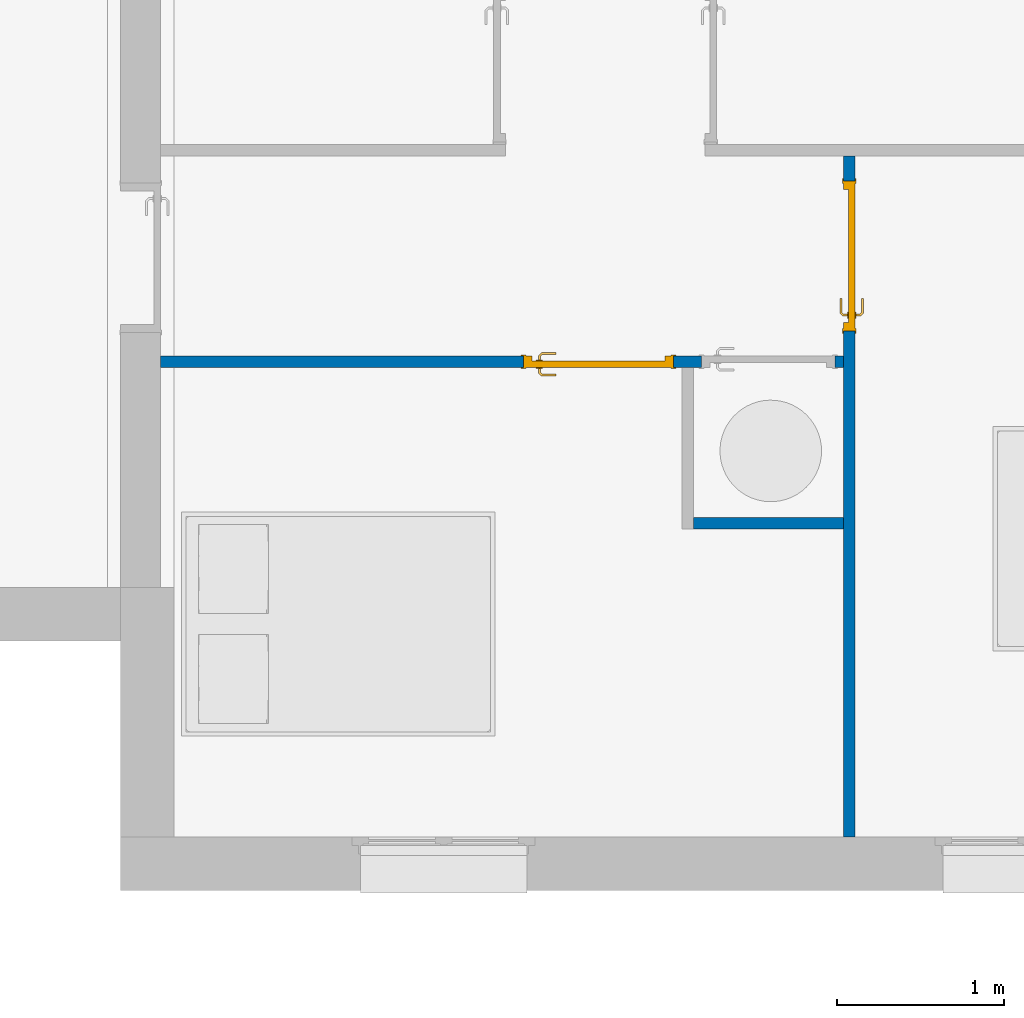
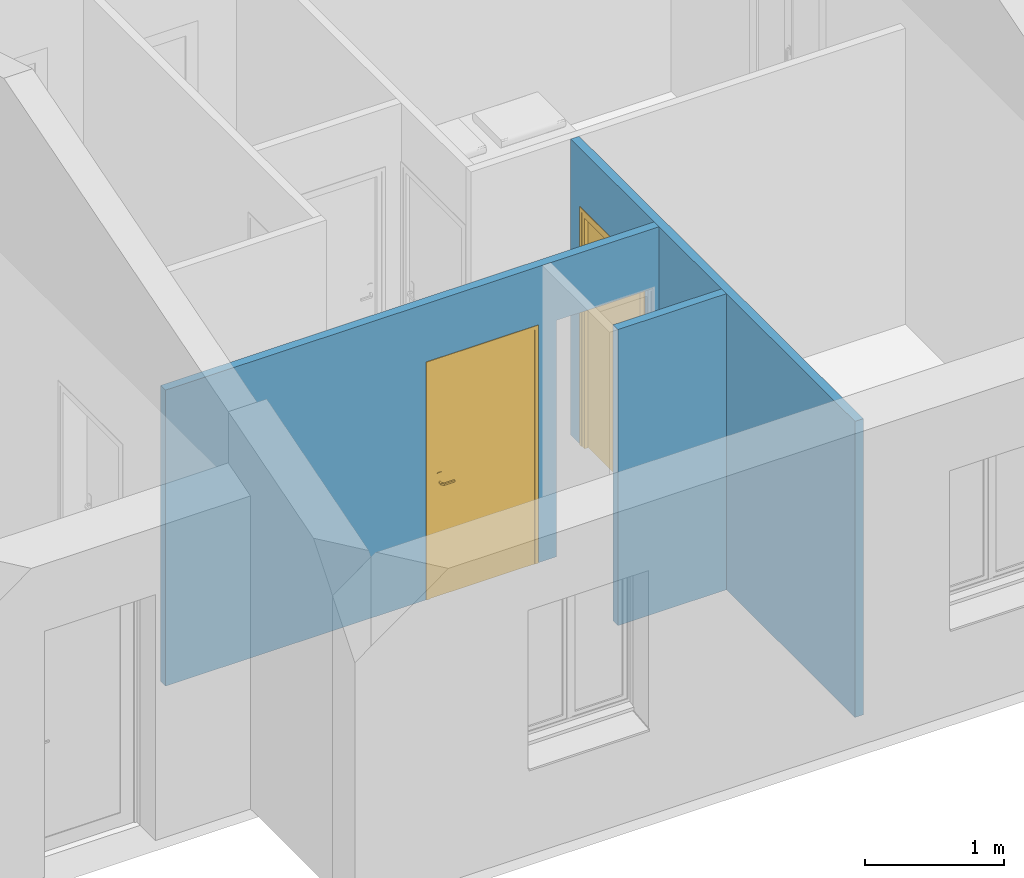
# One storey, part 3 of 18: 3 walls, 2 doors, 3 openings.
"""IFC2X3 building model written with IfcOpenShell, lengths in metres."""

import ifcopenshell
import ifcopenshell.guid

model = None  # the IFC model being written
_history = None  # IfcOwnerHistory: only IFC2X3 demands one
_inside = {}  # id of a spatial element -> (the spatial element, [elements in it])
_under = {}  # id of a project, library or spatial element -> (it, [spatial elements below it])
_declared = {}  # id of a project -> (the project, [libraries it declares])
_typed = {}  # id of a type object -> (the type object, [elements of that type])
_made_of = {}  # id of a material, layer set ... -> (it, [elements and type objects made of it])


def new_model(schema):
    """Start an empty IFC model of exactly this schema.

    Asked for "IFC4X3", IfcOpenShell would pick the latest addendum, in which some entities
    have other attributes; the version numbers below select the first issue.
    IFC2X3 requires an IfcOwnerHistory on every rooted entity: one is made here for all.
    """
    global model, _history
    if schema == "IFC4X3":
        model = ifcopenshell.file(schema_version=(4, 3, 0, 0))
    else:
        model = ifcopenshell.file(schema=schema)
    _inside.clear()
    _under.clear()
    _declared.clear()
    _typed.clear()
    _made_of.clear()
    _history = None
    if model.schema == "IFC2X3":
        org = make("IfcOrganization", Name="unknown")
        user = make(
            "IfcPersonAndOrganization",
            ThePerson=make("IfcPerson", FamilyName="unknown"),
            TheOrganization=org,
        )
        app = make(
            "IfcApplication",
            ApplicationDeveloper=org,
            Version="unknown",
            ApplicationFullName="unknown",
            ApplicationIdentifier="unknown",
        )
        _history = make(
            "IfcOwnerHistory",
            OwningUser=user,
            OwningApplication=app,
            ChangeAction="ADDED",
            CreationDate=0,
        )
    return model


def make(cls, **values):
    """One entity of the class cls with the attributes given. An attribute that is None is left unset."""
    return model.create_entity(
        cls, **{name: value for name, value in values.items() if value is not None}
    )


def entity(cls, *values):
    """Any entity or typed value of the class cls, its attributes in the order of the schema. None: left unset."""
    e = model.create_entity(cls)
    for i, value in enumerate(values):
        if value is not None:
            e[i] = value
    return e


def rooted(cls, **values):
    """An entity with a GlobalId (a new one), such as an element, a storey or a relation."""
    return make(cls, GlobalId=ifcopenshell.guid.new(), OwnerHistory=_history, **values)


def si_unit(unit_type, name, prefix=None):
    """IfcSIUnit, for example si_unit("LENGTHUNIT", "METRE", prefix="MILLI")."""
    return make("IfcSIUnit", UnitType=unit_type, Prefix=prefix, Name=name)


def converted_unit(unit_type, name, factor, base, dimensions=None, offset=None):
    """IfcConversionBasedUnit, such as the inch: factor (a typed value) times the base unit."""
    return make(
        "IfcConversionBasedUnit"
        if offset is None
        else "IfcConversionBasedUnitWithOffset",
        ConversionOffset=offset,
        Dimensions=None
        if dimensions is None
        else entity("IfcDimensionalExponents", *dimensions),
        UnitType=unit_type,
        Name=name,
        ConversionFactor=make(
            "IfcMeasureWithUnit", ValueComponent=factor, UnitComponent=base
        ),
    )


def derived_unit(unit_type, elements):
    """IfcDerivedUnit: a product of units, each with its exponent."""
    return make(
        "IfcDerivedUnit",
        Elements=[
            make("IfcDerivedUnitElement", Unit=unit, Exponent=power)
            for unit, power in elements
        ],
        UnitType=unit_type,
    )


def assignment(units):
    """IfcUnitAssignment: the units of a project."""
    return None if units is None else make("IfcUnitAssignment", Units=units)


def point(xyz):
    """IfcCartesianPoint."""
    return None if xyz is None else make("IfcCartesianPoint", Coordinates=xyz)


def direction(xyz):
    """IfcDirection."""
    return None if xyz is None else make("IfcDirection", DirectionRatios=xyz)


def frame(location, z_axis=None, x_axis=None):
    """IfcAxis2Placement3D, a coordinate frame: its origin and axes. An axis left out is left unset."""
    return make(
        "IfcAxis2Placement3D",
        Location=point(location),
        Axis=direction(z_axis),
        RefDirection=direction(x_axis),
    )


def frame_2d(location, x_axis=None):
    """IfcAxis2Placement2D, a coordinate frame in the plane: its origin and x axis."""
    return make(
        "IfcAxis2Placement2D", Location=point(location), RefDirection=direction(x_axis)
    )


def origin():
    """The frame at (0, 0, 0) with its axes left unset."""
    return frame((0.0, 0.0, 0.0))


def place(relative_to, where):
    """IfcLocalPlacement: puts the frame where relative to a parent placement (None: the world)."""
    return make(
        "IfcLocalPlacement", PlacementRelTo=relative_to, RelativePlacement=where
    )


def context(
    kind, dimensions, precision=None, world=None, true_north=None, identifier=None
):
    """IfcGeometricRepresentationContext, for example the 3D "Model" context."""
    return make(
        "IfcGeometricRepresentationContext",
        ContextIdentifier=identifier,
        ContextType=kind,
        CoordinateSpaceDimension=dimensions,
        Precision=precision,
        WorldCoordinateSystem=world,
        TrueNorth=true_north,
    )


def subcontext(parent, identifier, kind, view, scale=None):
    """IfcGeometricRepresentationSubContext, for example "Body" below "Model"."""
    return make(
        "IfcGeometricRepresentationSubContext",
        ContextIdentifier=identifier,
        ContextType=kind,
        ParentContext=parent,
        TargetScale=scale,
        TargetView=view,
    )


def project(units=None, contexts=None):
    """IfcProject with its units and contexts."""
    return rooted(
        "IfcProject",
        Name="project",
        RepresentationContexts=contexts,
        UnitsInContext=assignment(units),
    )


def spatial(cls, under=None, at=None, **own):
    """A site, building, storey or space (cls), placed at a placement, below another one or the project."""
    s = rooted(cls, ObjectPlacement=at, **own)
    if under is not None:
        _under.setdefault(under.id(), (under, []))[1].append(s)
    return s


def profile(cls, at=None, kind="AREA", **sizes):
    """A parametric profile (cls). Its sizes go by their IFC names, for example OverallWidth=200.0."""
    return make(cls, ProfileType=kind, Position=at, **sizes)


def rectangle(**sizes):
    """IfcRectangleProfileDef."""
    return profile("IfcRectangleProfileDef", **sizes)


def extrude(swept, where, along, depth):
    """IfcExtrudedAreaSolid: the profile swept, set in the frame where, extruded along a direction by depth."""
    return make(
        "IfcExtrudedAreaSolid",
        SweptArea=swept,
        Position=where,
        ExtrudedDirection=direction(along),
        Depth=depth,
    )


def faces_of(points, faces, orient=None, outer=None):
    """IfcFace entities. A face is a list of loops; a loop is a list of indices into points, from 0.

    orient and outer hold one flag for each loop. By default every Orientation is true, the
    first loop of a face is its IfcFaceOuterBound and the others are IfcFaceBound.
    """
    made = []
    for i, loops in enumerate(faces):
        bounds = []
        for j, loop in enumerate(loops):
            is_outer = j == 0 if outer is None else outer[i][j]
            bounds.append(
                make(
                    "IfcFaceOuterBound" if is_outer else "IfcFaceBound",
                    Bound=make("IfcPolyLoop", Polygon=[points[k] for k in loop]),
                    Orientation=True if orient is None else orient[i][j],
                )
            )
        made.append(make("IfcFace", Bounds=bounds))
    return made


def faceted_brep(points, faces, orient=None, outer=None, voids=None):
    """IfcFacetedBrep: a solid bounded by flat faces; with voids (closed shells), ...WithVoids."""
    shared = [point(p) for p in points]
    hull = make("IfcClosedShell", CfsFaces=faces_of(shared, faces, orient, outer))
    if voids is None:
        return make("IfcFacetedBrep", Outer=hull)
    return make(
        "IfcFacetedBrepWithVoids",
        Outer=hull,
        Voids=[
            make(cls, CfsFaces=faces_of(shared, fs, o, b)) for cls, fs, o, b in voids
        ],
    )


def shape(context_of_items, identifier, shape_type, items):
    """IfcShapeRepresentation: the items that make up one representation, for example the "Body"."""
    return make(
        "IfcShapeRepresentation",
        ContextOfItems=context_of_items,
        RepresentationIdentifier=identifier,
        RepresentationType=shape_type,
        Items=items,
    )


def source(mapping_origin, context_of_items, identifier, shape_type, items):
    """IfcRepresentationMap: a shape defined once, which mapped items show again and again."""
    return make(
        "IfcRepresentationMap",
        MappingOrigin=mapping_origin,
        MappedRepresentation=shape(context_of_items, identifier, shape_type, items),
    )


def transform(
    local_origin,
    x_axis=None,
    y_axis=None,
    z_axis=None,
    scale=None,
    scale2=None,
    scale3=None,
    uniform=True,
):
    """IfcCartesianTransformationOperator3D, or its non-uniform kind. x_axis, y_axis, z_axis: its Axis1, 2, 3."""
    if uniform:
        return make(
            "IfcCartesianTransformationOperator3D",
            Axis1=direction(x_axis),
            Axis2=direction(y_axis),
            LocalOrigin=point(local_origin),
            Scale=scale,
            Axis3=direction(z_axis),
        )
    return make(
        "IfcCartesianTransformationOperator3DnonUniform",
        Axis1=direction(x_axis),
        Axis2=direction(y_axis),
        LocalOrigin=point(local_origin),
        Scale=scale,
        Axis3=direction(z_axis),
        Scale2=scale2,
        Scale3=scale3,
    )


def mapped(mapping_source, mapping_target):
    """IfcMappedItem: shows the shape of a source again, moved by a transform."""
    return make(
        "IfcMappedItem", MappingSource=mapping_source, MappingTarget=mapping_target
    )


def material(Name=None, Category=None):
    """IfcMaterial."""
    return make("IfcMaterial", Name=Name, Category=Category)


def material_list(materials):
    """IfcMaterialList."""
    return make("IfcMaterialList", Materials=materials)


def layer(
    of_material, thickness, ventilated=None, Name=None, Category=None, Priority=None
):
    """IfcMaterialLayer: one layer of a wall or slab, of a material (None: an air gap)."""
    return make(
        "IfcMaterialLayer",
        Material=of_material,
        LayerThickness=thickness,
        IsVentilated=ventilated,
        Name=Name,
        Category=Category,
        Priority=Priority,
    )


def layer_set(layers, Name=None):
    """IfcMaterialLayerSet."""
    return make("IfcMaterialLayerSet", MaterialLayers=layers, LayerSetName=Name)


def layer_usage(for_layer_set, set_direction, sense, offset, extent=None):
    """IfcMaterialLayerSetUsage: how a layer set lies in its element."""
    return make(
        "IfcMaterialLayerSetUsage",
        ForLayerSet=for_layer_set,
        LayerSetDirection=set_direction,
        DirectionSense=sense,
        OffsetFromReferenceLine=offset,
        ReferenceExtent=extent,
    )


def made_of(thing, what):
    """Note that an element or type object is made of a material, layer set ...; save() writes the relation."""
    if what is not None:
        _made_of.setdefault(what.id(), (what, []))[1].append(thing)
    return thing


def type_object(cls, material=None, **own):
    """A type object (cls), such as IfcWallType, which elements share."""
    return made_of(rooted(cls, **own), material)


def type_shapes(of_type, sources):
    """Give a type object the sources (RepresentationMaps) that its elements show as mapped items."""
    of_type.RepresentationMaps = sources


def element(
    cls,
    number,
    at=None,
    inside=None,
    cuts=None,
    type_object=None,
    material=None,
    context=None,
    identifier="Body",
    shape_type=None,
    held_by="IfcProductDefinitionShape",
    body=None,
    shapes=None,
    **own,
):
    """One element of the class cls, such as IfcWall. Its Tag is "e" and its number.

    at: its placement. inside: the storey or other place that contains it. cuts: it is an
    opening in that element (IfcRelVoidsElement). A single representation is given by context,
    identifier, shape_type and body (its items); several are given by shapes. held_by: the class
    of the entity that holds the representations. save() writes the other relations.
    """
    e = rooted(cls, Tag="e%d" % number, ObjectPlacement=at, **own)
    if body is not None:
        shapes = [shape(context, identifier, shape_type, body)]
    if shapes is not None:
        e.Representation = make(held_by, Representations=shapes)
    if inside is not None:
        _inside.setdefault(inside.id(), (inside, []))[1].append(e)
    if cuts is not None:
        rooted(
            "IfcRelVoidsElement", RelatingBuildingElement=cuts, RelatedOpeningElement=e
        )
    if type_object is not None:
        _typed.setdefault(type_object.id(), (type_object, []))[1].append(e)
    return made_of(e, material)


def fill(opening, filler):
    """IfcRelFillsElement: the door or window that sits in an opening."""
    return rooted(
        "IfcRelFillsElement",
        RelatingOpeningElement=opening,
        RelatedBuildingElement=filler,
    )


def aggregate(whole, parts):
    """IfcRelAggregates: a whole, such as a stair, and the parts it consists of."""
    return rooted("IfcRelAggregates", RelatingObject=whole, RelatedObjects=parts)


def save(model, path):
    """Write the relations noted so far, then the file.

    IfcRelAggregates (storeys below a building ...), IfcRelContainedInSpatialStructure (elements
    in a storey), IfcRelDefinesByType, IfcRelAssociatesMaterial and IfcRelDeclares: one each for
    every whole, place, type object, material and project.
    """
    for whole, parts in _under.values():
        aggregate(whole, parts)
    for where, things in _inside.values():
        rooted(
            "IfcRelContainedInSpatialStructure",
            RelatedElements=things,
            RelatingStructure=where,
        )
    for kind, things in _typed.values():
        rooted("IfcRelDefinesByType", RelatedObjects=things, RelatingType=kind)
    for what, things in _made_of.values():
        rooted("IfcRelAssociatesMaterial", RelatedObjects=things, RelatingMaterial=what)
    for by, libraries in _declared.values():
        rooted("IfcRelDeclares", RelatingContext=by, RelatedDefinitions=libraries)
    model.write(path)


model = new_model("IFC2X3")

# Units and contexts
model_context = context("Model", 3, precision=1e-05, world=origin(), true_north=direction((6.12303176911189e-17, 1.0)))
body_context = subcontext(model_context, "Body", "Model", "MODEL_VIEW")
ifc_project = project(units=[si_unit("LENGTHUNIT", "METRE"), si_unit("AREAUNIT", "SQUARE_METRE"), si_unit("VOLUMEUNIT", "CUBIC_METRE"), converted_unit("PLANEANGLEUNIT", "DEGREE", entity("IfcRatioMeasure", 0.0174532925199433), si_unit("PLANEANGLEUNIT", "RADIAN"), dimensions=[0, 0, 0, 0, 0, 0, 0]), si_unit("MASSUNIT", "GRAM", prefix="KILO"), derived_unit("MASSDENSITYUNIT", [(si_unit("MASSUNIT", "GRAM", prefix="KILO"), 1), (si_unit("LENGTHUNIT", "METRE"), -3)]), derived_unit("MOMENTOFINERTIAUNIT", [(si_unit("LENGTHUNIT", "METRE"), 4)]), si_unit("TIMEUNIT", "SECOND"), si_unit("FREQUENCYUNIT", "HERTZ"), si_unit("THERMODYNAMICTEMPERATUREUNIT", "DEGREE_CELSIUS"), derived_unit("THERMALTRANSMITTANCEUNIT", [(si_unit("MASSUNIT", "GRAM", prefix="KILO"), 1), (si_unit("THERMODYNAMICTEMPERATUREUNIT", "KELVIN"), -1), (si_unit("TIMEUNIT", "SECOND"), -3)]), derived_unit("VOLUMETRICFLOWRATEUNIT", [(si_unit("LENGTHUNIT", "METRE"), 3), (si_unit("TIMEUNIT", "SECOND"), -1)]), si_unit("ELECTRICCURRENTUNIT", "AMPERE"), si_unit("ELECTRICVOLTAGEUNIT", "VOLT"), si_unit("POWERUNIT", "WATT"), si_unit("FORCEUNIT", "NEWTON", prefix="KILO"), si_unit("ILLUMINANCEUNIT", "LUX"), si_unit("LUMINOUSFLUXUNIT", "LUMEN"), si_unit("LUMINOUSINTENSITYUNIT", "CANDELA"), derived_unit("USERDEFINED", [(si_unit("MASSUNIT", "GRAM", prefix="KILO"), -1), (si_unit("LENGTHUNIT", "METRE"), -2), (si_unit("TIMEUNIT", "SECOND"), 3), (si_unit("LUMINOUSFLUXUNIT", "LUMEN"), 1)]), derived_unit("LINEARVELOCITYUNIT", [(si_unit("LENGTHUNIT", "METRE"), 1), (si_unit("TIMEUNIT", "SECOND"), -1)]), si_unit("PRESSUREUNIT", "PASCAL"), derived_unit("USERDEFINED", [(si_unit("LENGTHUNIT", "METRE"), -2), (si_unit("MASSUNIT", "GRAM", prefix="KILO"), 1), (si_unit("TIMEUNIT", "SECOND"), -2)]), derived_unit("LINEARFORCEUNIT", [(si_unit("MASSUNIT", "GRAM", prefix="KILO"), 1), (si_unit("LENGTHUNIT", "METRE"), 1), (si_unit("TIMEUNIT", "SECOND"), -2), (si_unit("LENGTHUNIT", "METRE"), -1)]), derived_unit("PLANARFORCEUNIT", [(si_unit("MASSUNIT", "GRAM", prefix="KILO"), 1), (si_unit("LENGTHUNIT", "METRE"), 1), (si_unit("TIMEUNIT", "SECOND"), -2), (si_unit("LENGTHUNIT", "METRE"), -2)])], contexts=[model_context])

# Site, building, storey
site_placement = place(None, origin())
site = spatial("IfcSite", under=ifc_project, at=site_placement, Name="Surface", CompositionType="ELEMENT")
building_placement = place(site_placement, origin())
building = spatial("IfcBuilding", under=site, at=building_placement, CompositionType="ELEMENT")
storey_placement = place(building_placement, origin())
storey = spatial("IfcBuildingStorey", under=building, at=storey_placement, Name="RDC", CompositionType="ELEMENT", Elevation=-1.94916083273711e-14)

# Wall, openings, door
ifc_material_1 = material(Name="Mur par défaut")
ifc_layer = layer(ifc_material_1, 0.07)
ifc_layer_set = layer_set([ifc_layer], Name="Mur de base:Int. Plâtre 70 mm")
ifc_layer_usage_1 = layer_usage(ifc_layer_set, "AXIS2", "NEGATIVE", 0.035)
wall_type = type_object("IfcWallType", Name="Mur de base:Int. Plâtre 70 mm", PredefinedType="STANDARD", material=ifc_layer_set)
wall_1_placement = place(storey_placement, frame((-11.1082926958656, 2.06237977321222, 0.0)))
wall_1 = element("IfcWallStandardCase", 1, at=wall_1_placement, inside=storey, type_object=wall_type, material=ifc_layer_usage_1, Name="Mur de base:Int. Plâtre 70 mm", ObjectType="Mur de base:Int. Plâtre 70 mm", context=body_context, shape_type="SweptSolid", body=[
    extrude(rectangle(XDim=4.1, YDim=0.0699999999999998, at=frame_2d((2.05, -2.77555756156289e-17), x_axis=(-1.0, 0.0))), origin(), (0.0, 0.0, 1.0), 2.6),
])
opening_1_placement = place(wall_1_placement, frame((3.08, 0.0349999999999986, 0.0)))
opening_1 = element("IfcOpeningElement", 2, at=opening_1_placement, cuts=wall_1, Name="Int. Simple:PP (0.83m x 2.04m):1", ObjectType="Opening", context=body_context, shape_type="SweptSolid", body=[
    extrude(rectangle(XDim=2.075, YDim=0.9, at=frame_2d((1.0375, 0.45), x_axis=(1.0, 0.0))), frame((0.0, 0.0, 0.0), z_axis=(0.0, -1.0, 0.0), x_axis=(0.0, 0.0, 1.0)), (0.0, 0.0, 1.0), 0.07),
])
opening_2_placement = place(wall_1_placement, frame((3.25, -0.0349999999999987, 0.0)))
element("IfcOpeningElement", 3, at=opening_2_placement, cuts=wall_1, Name="Int. Simple:PP (0.73m x 2.04m):1", ObjectType="Opening", context=body_context, shape_type="SweptSolid", body=[
    extrude(rectangle(XDim=2.075, YDim=0.799999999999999, at=frame_2d((1.0375, 0.4), x_axis=(1.0, 0.0))), frame((0.0, 0.0, 0.0), z_axis=(0.0, 1.0, 0.0), x_axis=(0.0, 0.0, 1.0)), (0.0, 0.0, 1.0), 0.07),
])
ifc_material_2 = material(Name="Finition Peinture - Blanc satiné")
ifc_material_3 = material(Name="Bois - Panneau de porte")
ifc_material_4 = material(Name="Bois - Cadre de porte")
ifc_material_list_1 = material_list([ifc_material_2, ifc_material_3, ifc_material_4])
ifc_material_list_2 = material_list([ifc_material_3, ifc_material_4, ifc_material_2, ifc_material_4])
door_style = type_object("IfcDoorStyle", Name="Int. Simple:PP (0.83m x 2.04m)", ConstructionType="NOTDEFINED", OperationType="NOTDEFINED", ParameterTakesPrecedence=False, Sizeable=False, material=ifc_material_list_2)
shared_shape = source(origin(), body_context, "Body", "Brep", [
    faceted_brep([(0.105352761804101, -0.00500000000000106, 0.866003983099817), (0.115, -0.00500000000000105, 0.870000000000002), (0.114999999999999, -0.00500000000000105, 1.08), (0.1053527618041, -0.00500000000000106, 1.08399601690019), (0.094999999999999, -0.00500000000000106, 1.08535898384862), (0.0846472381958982, -0.00500000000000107, 1.08399601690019), (0.0749999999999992, -0.00500000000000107, 1.08), (0.0750000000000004, -0.00500000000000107, 0.870000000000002), (0.0846472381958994, -0.00500000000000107, 0.866003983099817), (0.0950000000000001, -0.00500000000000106, 0.86464101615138), (0.1053527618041, 0.0, 1.08399601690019), (0.114999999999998, 0.0, 1.08), (0.115, 0.0, 0.870000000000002), (0.105352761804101, 0.0, 0.866003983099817), (0.0950000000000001, 0.0, 0.86464101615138), (0.0846472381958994, 0.0, 0.866003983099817), (0.0749999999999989, 0.0, 0.870000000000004), (0.0749999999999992, 0.0, 1.08), (0.0846472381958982, 0.0, 1.08399601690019), (0.094999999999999, 0.0, 1.08535898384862)], [[[0, 1, 2, 3, 4, 5, 6, 7, 8, 9]], [[10, 11, 12, 13, 14, 15, 16, 17, 18, 19]], [[16, 15, 8, 7]], [[8, 15, 14, 9]], [[14, 13, 0, 9]], [[13, 12, 1, 0]], [[2, 1, 12, 11]], [[11, 10, 3, 2]], [[3, 10, 19, 4]], [[19, 18, 5, 4]], [[18, 17, 6, 5]], [[7, 6, 17, 16]]]),
    faceted_brep([(0.105352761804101, 0.0399999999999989, 0.866003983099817), (0.115, 0.0399999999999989, 0.870000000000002), (0.114999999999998, 0.0399999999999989, 1.08), (0.105352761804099, 0.0399999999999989, 1.08399601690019), (0.0949999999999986, 0.0399999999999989, 1.08535898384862), (0.084647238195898, 0.0399999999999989, 1.08399601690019), (0.0749999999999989, 0.0399999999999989, 1.08), (0.0750000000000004, 0.0399999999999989, 0.870000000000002), (0.0846472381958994, 0.0399999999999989, 0.866003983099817), (0.0950000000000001, 0.0399999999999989, 0.86464101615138), (0.105352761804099, 0.0449999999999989, 1.08399601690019), (0.114999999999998, 0.0449999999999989, 1.08), (0.115, 0.0449999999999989, 0.870000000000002), (0.105352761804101, 0.0449999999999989, 0.866003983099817), (0.0950000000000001, 0.0449999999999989, 0.86464101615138), (0.0846472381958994, 0.0449999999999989, 0.866003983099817), (0.0749999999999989, 0.0449999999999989, 0.870000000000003), (0.0749999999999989, 0.0449999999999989, 1.08), (0.084647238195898, 0.0449999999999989, 1.08399601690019), (0.0949999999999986, 0.0449999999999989, 1.08535898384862)], [[[0, 1, 2, 3, 4, 5, 6, 7, 8, 9]], [[10, 11, 12, 13, 14, 15, 16, 17, 18, 19]], [[11, 10, 3, 2]], [[3, 10, 19, 4]], [[19, 18, 5, 4]], [[18, 17, 6, 5]], [[7, 6, 17, 16]], [[16, 15, 8, 7]], [[8, 15, 14, 9]], [[14, 13, 0, 9]], [[13, 12, 1, 0]], [[2, 1, 12, 11]]]),
    faceted_brep([(0.0929747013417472, -0.00500000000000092, 1.00778044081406), (0.0970252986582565, -0.0050000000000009, 1.00778044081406), (0.101000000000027, -0.00500000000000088, 1.00699999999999), (0.101000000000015, -0.00500000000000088, 0.993000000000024), (0.0970252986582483, -0.0050000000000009, 0.992219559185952), (0.0929747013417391, -0.00500000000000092, 0.99221955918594), (0.0889999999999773, -0.00500000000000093, 0.992999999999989), (0.0889999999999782, -0.00500000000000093, 1.007), (0.0889999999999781, -0.0326509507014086, 1.007), (0.092974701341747, -0.0310045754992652, 1.00778044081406), (0.10902358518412, -0.0470534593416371, 1.00778044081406), (0.110701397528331, -0.0430028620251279, 1.00778044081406), (0.0970252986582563, -0.0293267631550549, 1.00778044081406), (0.101000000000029, -0.0276803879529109, 1.007), (0.101000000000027, -0.0276803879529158, 0.993000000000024), (0.0970252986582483, -0.0293267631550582, 0.992219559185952), (0.110701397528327, -0.0430028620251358, 0.992219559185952), (0.109023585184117, -0.0470534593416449, 0.99221955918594), (0.0929747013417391, -0.0310045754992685, 0.99221955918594), (0.0889999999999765, -0.0326509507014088, 0.992999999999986), (0.107377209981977, -0.0510281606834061, 1.007), (0.112347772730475, -0.0390281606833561, 1.007), (0.112347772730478, -0.0390281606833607, 0.993000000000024), (0.107377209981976, -0.0510281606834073, 0.992999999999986), (0.195018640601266, -0.0510281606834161, 0.992999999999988), (0.195018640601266, -0.0470534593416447, 0.99221955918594), (0.195018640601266, -0.0430028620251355, 0.992219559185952), (0.195018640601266, -0.039028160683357, 0.993000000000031), (0.195018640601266, -0.0390281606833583, 1.007), (0.195018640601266, -0.0430028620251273, 1.00778044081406), (0.195018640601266, -0.0470534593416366, 1.00778044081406), (0.195018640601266, -0.0510281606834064, 1.00699999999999), (0.147307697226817, -0.0510281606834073, 1.007), (0.152860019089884, -0.045028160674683, 1.0078786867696), (0.15368320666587, -0.039028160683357, 1.007), (0.153683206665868, -0.039028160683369, 0.993000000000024), (0.152860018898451, -0.0450281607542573, 0.992121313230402), (0.147307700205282, -0.0510281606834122, 0.992999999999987)], [[[0, 1, 2, 3, 4, 5, 6, 7]], [[8, 9, 0, 7]], [[9, 10, 11, 12, 1, 0]], [[12, 13, 2, 1]], [[3, 2, 13, 14]], [[14, 15, 4, 3]], [[15, 16, 17, 18, 5, 4]], [[18, 19, 6, 5]], [[7, 6, 19, 8]], [[20, 10, 9, 8]], [[11, 21, 13, 12]], [[14, 13, 21, 22]], [[22, 16, 15, 14]], [[17, 23, 19, 18]], [[8, 19, 23, 20]], [[24, 25, 26, 27, 28, 29, 30, 31]], [[32, 30, 33]], [[31, 30, 32]], [[10, 20, 32]], [[33, 34, 11]], [[21, 11, 34]], [[34, 29, 28]], [[30, 29, 33]], [[29, 34, 33]], [[10, 32, 33]], [[10, 33, 11]], [[22, 21, 34, 28, 27, 35]], [[35, 26, 36]], [[37, 36, 25]], [[22, 35, 16]], [[35, 27, 26]], [[24, 37, 25]], [[23, 17, 37]], [[37, 17, 36]], [[17, 16, 36]], [[16, 35, 36]], [[25, 36, 26]], [[20, 23, 37, 24, 31, 32]]]),
    faceted_brep([(0.0929747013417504, 0.0449999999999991, 1.00778044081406), (0.0889999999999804, 0.044999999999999, 1.007), (0.0889999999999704, 0.044999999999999, 0.992999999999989), (0.0929747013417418, 0.0449999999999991, 0.99221955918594), (0.0970252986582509, 0.0449999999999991, 0.992219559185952), (0.10100000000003, 0.0449999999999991, 0.993000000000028), (0.101000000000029, 0.0449999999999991, 1.007), (0.0970252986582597, 0.0449999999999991, 1.00778044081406), (0.10100000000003, 0.067485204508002, 0.993000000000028), (0.10100000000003, 0.0674852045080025, 1.007), (0.0970252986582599, 0.0691315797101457, 1.00778044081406), (0.110838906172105, 0.0829451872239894, 1.00778044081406), (0.109161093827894, 0.0869957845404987, 1.00778044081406), (0.0929747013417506, 0.070809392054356, 1.00778044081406), (0.0889999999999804, 0.0724557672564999, 1.007), (0.0889999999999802, 0.072455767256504, 0.992999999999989), (0.0929747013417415, 0.0708093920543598, 0.99221955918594), (0.109161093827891, 0.0869957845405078, 0.99221955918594), (0.110838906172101, 0.0829451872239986, 0.992219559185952), (0.0970252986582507, 0.0691315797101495, 0.992219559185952), (0.112485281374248, 0.0789704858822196, 0.993000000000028), (0.112485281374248, 0.0789704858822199, 1.007), (0.107514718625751, 0.0909704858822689, 1.007), (0.107514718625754, 0.090970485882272, 0.992999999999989), (0.195045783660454, 0.0789704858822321, 0.993000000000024), (0.195045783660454, 0.0829451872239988, 0.992219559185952), (0.195045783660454, 0.086995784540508, 0.99221955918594), (0.195045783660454, 0.0909704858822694, 0.992999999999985), (0.195045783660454, 0.0909704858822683, 1.007), (0.195045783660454, 0.0869957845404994, 1.00778044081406), (0.195045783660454, 0.0829451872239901, 1.00778044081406), (0.195045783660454, 0.0789704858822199, 1.007), (0.153765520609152, 0.0789704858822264, 0.993000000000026), (0.153765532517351, 0.0789704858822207, 1.007), (0.152942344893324, 0.0849704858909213, 1.0078786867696), (0.147445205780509, 0.0909704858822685, 1.007), (0.147445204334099, 0.0909704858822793, 0.992999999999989), (0.152942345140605, 0.0849704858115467, 0.992121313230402)], [[[0, 1, 2, 3, 4, 5, 6, 7]], [[6, 5, 8, 9]], [[9, 10, 7, 6]], [[10, 11, 12, 13, 0, 7]], [[13, 14, 1, 0]], [[2, 1, 14, 15]], [[15, 16, 3, 2]], [[16, 17, 18, 19, 4, 3]], [[19, 8, 5, 4]], [[9, 8, 20, 21]], [[21, 11, 10, 9]], [[12, 22, 14, 13]], [[15, 14, 22, 23]], [[23, 17, 16, 15]], [[18, 20, 8, 19]], [[24, 25, 26, 27, 28, 29, 30, 31]], [[21, 20, 32, 24, 31, 33]], [[33, 30, 34]], [[35, 34, 29]], [[21, 33, 11]], [[33, 31, 30]], [[28, 35, 29]], [[22, 12, 35]], [[35, 12, 34]], [[12, 11, 34]], [[11, 33, 34]], [[29, 34, 30]], [[22, 35, 28, 27, 36, 23]], [[36, 26, 37]], [[27, 26, 36]], [[17, 23, 36]], [[37, 32, 18]], [[20, 18, 32]], [[32, 25, 24]], [[26, 25, 37]], [[25, 32, 37]], [[17, 36, 37]], [[17, 37, 18]]]),
    faceted_brep([(0.034999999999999, 0.04, 2.04), (0.865, 0.04, 2.04), (0.864999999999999, 0.04, 0.0), (0.034999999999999, 0.04, 0.0), (0.034999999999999, 0.0, 2.04), (0.034999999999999, 0.0, 0.0), (0.864999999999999, 0.0, 0.0), (0.865, 0.0, 2.04)], [[[0, 1, 2, 3]], [[4, 5, 6, 7]], [[1, 0, 4, 7]], [[2, 1, 7, 6]], [[3, 2, 6, 5]], [[0, 3, 5, 4]]]),
    faceted_brep([(0.0, 0.0, 0.0), (0.0, 0.0699999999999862, 0.0), (0.0500000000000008, 0.0699999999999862, 0.0), (0.0500000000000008, 0.04, 0.0), (0.0349999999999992, 0.04, 0.0), (0.0349999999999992, 0.0, 0.0), (0.0, 0.0, 2.07500000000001), (0.0, 0.0699999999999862, 2.07500000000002), (0.900000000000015, 0.0699999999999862, 2.07500000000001), (0.900000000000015, 0.0699999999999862, 0.0), (0.849999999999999, 0.0699999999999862, 0.0), (0.849999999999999, 0.0699999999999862, 2.025), (0.0500000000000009, 0.0699999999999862, 2.025), (0.0500000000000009, 0.04, 2.025), (0.849999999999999, 0.04, 2.025), (0.849999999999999, 0.04, 0.0), (0.865000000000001, 0.04, 0.0), (0.865000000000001, 0.04, 2.04), (0.0349999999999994, 0.04, 2.04), (0.0349999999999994, 0.0, 2.04), (0.865000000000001, 0.0, 2.04), (0.865000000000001, 0.0, 0.0), (0.900000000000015, 0.0, 0.0), (0.900000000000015, 0.0, 2.07500000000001)], [[[0, 1, 2, 3, 4, 5]], [[1, 0, 6, 7]], [[2, 1, 7, 8, 9, 10, 11, 12]], [[3, 2, 12, 13]], [[4, 3, 13, 14, 15, 16, 17, 18]], [[5, 4, 18, 19]], [[0, 5, 19, 20, 21, 22, 23, 6]], [[8, 23, 22, 9]], [[22, 21, 16, 15, 10, 9]], [[14, 11, 10, 15]], [[20, 17, 16, 21]], [[7, 6, 23, 8]], [[13, 12, 11, 14]], [[19, 18, 17, 20]]]),
    faceted_brep([(0.0149999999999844, 0.0699999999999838, 0.0), (-0.0150000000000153, 0.0699999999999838, 0.0), (-0.0150000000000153, 0.0749999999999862, 0.0), (0.0149999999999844, 0.0749999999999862, 0.0), (0.0149999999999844, 0.0699999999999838, 2.06000000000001), (0.88499999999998, 0.0699999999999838, 2.06000000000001), (0.88499999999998, 0.0699999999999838, 0.0), (0.91499999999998, 0.0699999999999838, 0.0), (0.91499999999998, 0.0699999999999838, 2.09000000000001), (-0.0150000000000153, 0.0699999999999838, 2.09000000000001), (-0.0150000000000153, 0.0749999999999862, 2.09000000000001), (0.91499999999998, 0.0749999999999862, 2.09000000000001), (0.91499999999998, 0.0749999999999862, 0.0), (0.88499999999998, 0.0749999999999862, 0.0), (0.88499999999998, 0.0749999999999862, 2.06000000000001), (0.0149999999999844, 0.0749999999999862, 2.06000000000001)], [[[0, 1, 2, 3]], [[1, 0, 4, 5, 6, 7, 8, 9]], [[2, 1, 9, 10]], [[3, 2, 10, 11, 12, 13, 14, 15]], [[0, 3, 15, 4]], [[6, 13, 12, 7]], [[5, 14, 13, 6]], [[11, 8, 7, 12]], [[10, 9, 8, 11]], [[4, 15, 14, 5]]]),
    faceted_brep([(-0.0150000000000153, -0.00499999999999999, 0.0), (0.0149999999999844, -0.00499999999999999, 0.0), (0.0149999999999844, -0.00499999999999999, 2.06000000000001), (0.88499999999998, -0.00499999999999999, 2.06000000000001), (0.88499999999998, -0.00499999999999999, 0.0), (0.91499999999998, -0.00499999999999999, 0.0), (0.91499999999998, -0.00499999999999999, 2.09000000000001), (-0.0150000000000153, -0.00499999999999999, 2.09000000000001), (-0.0150000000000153, 0.0, 0.0), (-0.0150000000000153, 0.0, 2.09000000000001), (0.0149999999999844, 0.0, 0.0), (0.91499999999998, 0.0, 2.09000000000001), (0.91499999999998, 0.0, 0.0), (0.88499999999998, 0.0, 0.0), (0.88499999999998, 0.0, 2.06000000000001), (0.0149999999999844, 0.0, 2.06000000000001)], [[[0, 1, 2, 3, 4, 5, 6, 7]], [[8, 0, 7, 9]], [[10, 8, 9, 11, 12, 13, 14, 15]], [[1, 10, 15, 2]], [[3, 14, 13, 4]], [[11, 6, 5, 12]], [[9, 7, 6, 11]], [[2, 15, 14, 3]], [[4, 13, 12, 5]], [[1, 0, 8, 10]]]),
])
type_shapes(door_style, [shared_shape])
door_1_placement = place(opening_1_placement, frame((-0.9, -0.0700000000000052, 0.0)))
door_1 = element("IfcDoor", 4, at=door_1_placement, inside=storey, type_object=door_style, material=ifc_material_list_1, Name="Int. Simple:PP (0.83m x 2.04m)", ObjectType="Int. Simple:PP (0.83m x 2.04m)", OverallHeight=2.075, OverallWidth=0.9, context=body_context, shape_type="MappedRepresentation", body=[
    mapped(shared_shape, transform((0.0, 0.0, 0.0), scale=1.0)),
])
fill(opening_1, door_1)

# Wall, opening, door
ifc_layer_usage_2 = layer_usage(ifc_layer_set, "AXIS2", "NEGATIVE", 0.035)
wall_2_placement = place(storey_placement, frame((-6.97329269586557, 3.29737977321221, 0.0), z_axis=(0.0, 0.0, 1.0), x_axis=(0.0, -1.0, 0.0)))
wall_2 = element("IfcWallStandardCase", 5, at=wall_2_placement, inside=storey, type_object=wall_type, material=ifc_layer_usage_2, Name="Mur de base:Int. Plâtre 70 mm", ObjectType="Mur de base:Int. Plâtre 70 mm", context=body_context, shape_type="SweptSolid", body=[
    extrude(rectangle(XDim=4.08999999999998, YDim=0.0699999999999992, at=frame_2d((2.04499999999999, -1.28369537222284e-16), x_axis=(-1.0, 0.0))), origin(), (0.0, 0.0, 1.0), 2.6),
])
opening_3_placement = place(wall_2_placement, frame((0.150000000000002, -0.0349999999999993, 0.0)))
opening_3 = element("IfcOpeningElement", 6, at=opening_3_placement, cuts=wall_2, Name="Int. Simple:PP (0.83m x 2.04m):1", ObjectType="Opening", context=body_context, shape_type="SweptSolid", body=[
    extrude(rectangle(XDim=2.075, YDim=0.9, at=frame_2d((1.0375, 0.45), x_axis=(1.0, 0.0))), frame((0.0, 0.0, 0.0), z_axis=(0.0, 1.0, 0.0), x_axis=(0.0, 0.0, 1.0)), (0.0, 0.0, 1.0), 0.07),
])
ifc_material_list_3 = material_list([ifc_material_2, ifc_material_3, ifc_material_4])
door_2_placement = place(opening_3_placement, frame((0.9, 0.0699999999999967, 0.0), z_axis=(0.0, 0.0, 1.0), x_axis=(-1.0, 0.0, 0.0)))
door_2 = element("IfcDoor", 7, at=door_2_placement, inside=storey, type_object=door_style, material=ifc_material_list_3, Name="Int. Simple:PP (0.83m x 2.04m)", ObjectType="Int. Simple:PP (0.83m x 2.04m)", OverallHeight=2.075, OverallWidth=0.9, context=body_context, shape_type="MappedRepresentation", body=[
    mapped(shared_shape, transform((0.0, 0.0, 0.0), scale=1.0)),
])
fill(opening_3, door_2)

# Wall
ifc_layer_usage_3 = layer_usage(ifc_layer_set, "AXIS2", "NEGATIVE", 0.035)
wall_3_placement = place(storey_placement, frame((-7.90829269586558, 1.09237977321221, 0.0)))
element("IfcWallStandardCase", 8, at=wall_3_placement, inside=storey, type_object=wall_type, material=ifc_layer_usage_3, Name="Mur de base:Int. Plâtre 70 mm", ObjectType="Mur de base:Int. Plâtre 70 mm", context=body_context, shape_type="SweptSolid", body=[
    extrude(rectangle(XDim=0.899999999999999, YDim=0.0700000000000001, at=frame_2d((0.449999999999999, -3.46944695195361e-18), x_axis=(-1.0, 0.0))), origin(), (0.0, 0.0, 1.0), 2.6),
])

save(model, "model.ifc")
